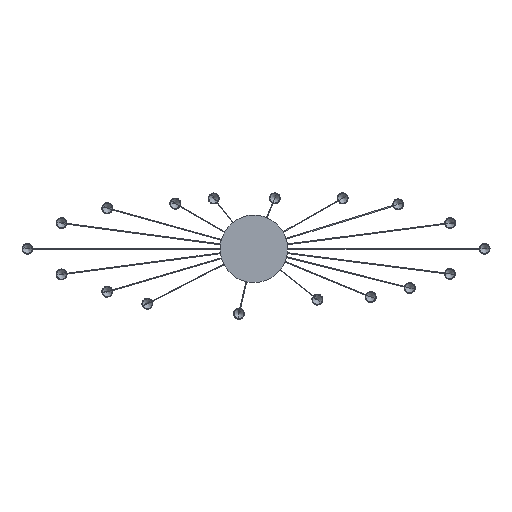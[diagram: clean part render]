
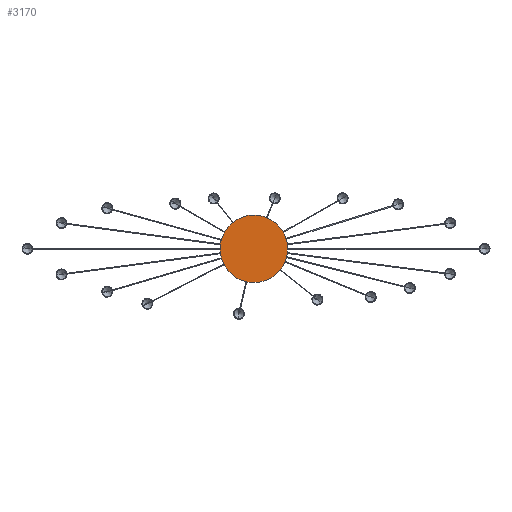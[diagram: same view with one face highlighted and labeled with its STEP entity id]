
A CAD part, front view. The second image highlights one B-rep face of the part: STEP entity #3170.
In plain terms, the highlighted planar face has unit normal (0, -1, 0).
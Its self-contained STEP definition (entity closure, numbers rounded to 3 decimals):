
#242 = CARTESIAN_POINT ( 'NONE',  ( 0., -21.5, 155. ) ) ;
#944 = DIRECTION ( 'NONE',  ( 0., 0., -1. ) ) ;
#1166 = EDGE_CURVE ( 'NONE', #7124, #1238, #7810, .T. ) ;
#1238 = VERTEX_POINT ( 'NONE', #5539 ) ;
#1675 = DIRECTION ( 'NONE',  ( 0., -1., 0. ) ) ;
#1802 = EDGE_LOOP ( 'NONE', ( #6114, #4610 ) ) ;
#2173 = FACE_OUTER_BOUND ( 'NONE', #1802, .T. ) ;
#3170 = ADVANCED_FACE ( 'NONE', ( #2173 ), #7373, .T. ) ;
#4610 = ORIENTED_EDGE ( 'NONE', *, *, #1166, .T. ) ;
#4714 = CIRCLE ( 'NONE', #9604, 155. ) ;
#5539 = CARTESIAN_POINT ( 'NONE',  ( 0., -21.5, -155. ) ) ;
#5629 = DIRECTION ( 'NONE',  ( 0., -1., 0. ) ) ;
#6114 = ORIENTED_EDGE ( 'NONE', *, *, #6534, .T. ) ;
#6534 = EDGE_CURVE ( 'NONE', #1238, #7124, #4714, .T. ) ;
#7124 = VERTEX_POINT ( 'NONE', #242 ) ;
#7373 = PLANE ( 'NONE',  #8579 ) ;
#7810 = CIRCLE ( 'NONE', #8367, 155. ) ;
#8365 = DIRECTION ( 'NONE',  ( 0., 0., -1. ) ) ;
#8367 = AXIS2_PLACEMENT_3D ( 'NONE', #10370, #8724, #944 ) ;
#8579 = AXIS2_PLACEMENT_3D ( 'NONE', #9947, #5629, #8365 ) ;
#8724 = DIRECTION ( 'NONE',  ( 0., -1., 0. ) ) ;
#9454 = CARTESIAN_POINT ( 'NONE',  ( 0., -21.5, 0. ) ) ;
#9604 = AXIS2_PLACEMENT_3D ( 'NONE', #9454, #1675, #11220 ) ;
#9947 = CARTESIAN_POINT ( 'NONE',  ( 155., -21.5, 0. ) ) ;
#10370 = CARTESIAN_POINT ( 'NONE',  ( 0., -21.5, 0. ) ) ;
#11220 = DIRECTION ( 'NONE',  ( 0., 0., -1. ) ) ;
